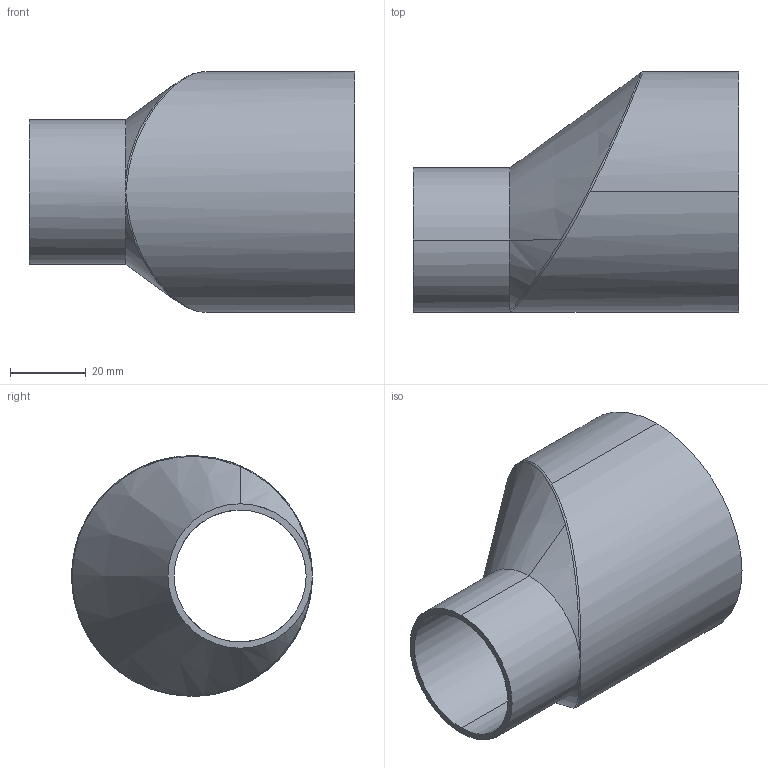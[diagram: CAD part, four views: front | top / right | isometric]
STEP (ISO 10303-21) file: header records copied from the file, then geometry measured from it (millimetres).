
FILE_DESCRIPTION (( 'STEP AP214' ), '1' );
FILE_NAME ('TE32SWW6L2.5x1.5-...STEP', '2016-06-01T07:23:09', ( 'eran' ), ( '' ), 'SwSTEP 2.0', 'SolidWorks 2016', '' );
FILE_SCHEMA (( 'AUTOMOTIVE_DESIGN' ));
Length unit declared in the file: millimetre
Products named in the file (1): TE32SWW6L2.5x1.5-..
Bounding box: 85.72 x 63.5 x 63.5 mm (x, y, z)
Volume: 63838.8 mm3; surface area: 27153.6 mm2
Topology: 1 solids, 1 shells, 22 faces, 53 edges, 29 vertices
Faces by surface type: cylinder 8, cone 5, bspline 5, torus 2, plane 2
Entity records: 1412 total; most frequent: CARTESIAN_POINT 920, ORIENTED_EDGE 98, DIRECTION 91, EDGE_CURVE 49, AXIS2_PLACEMENT_3D 40, VERTEX_POINT 29, EDGE_LOOP 24, FACE_OUTER_BOUND 22
